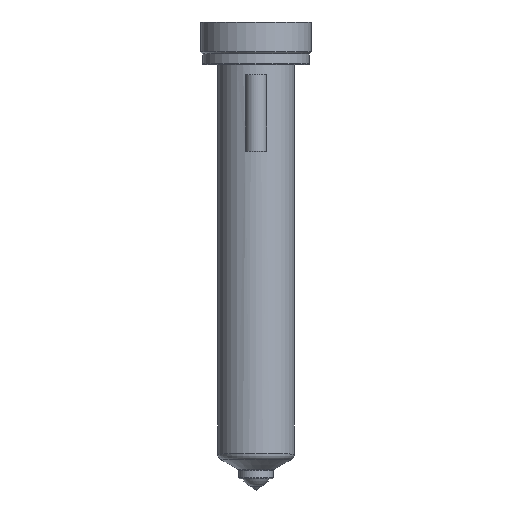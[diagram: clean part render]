
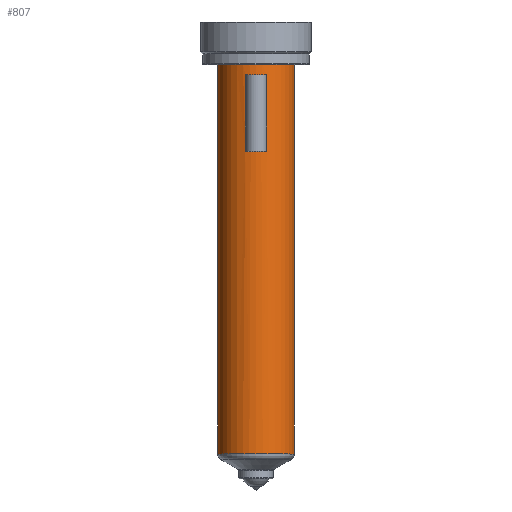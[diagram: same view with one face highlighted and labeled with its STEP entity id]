
A CAD part, top view. The second image highlights one B-rep face of the part: STEP entity #807.
In plain terms, the highlighted cylindrical face has radius 9 mm (diameter 18 mm), a partial arc.
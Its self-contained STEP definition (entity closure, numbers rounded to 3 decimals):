
#193=DIRECTION('',(0.,-1.,0.));
#194=VECTOR('',#193,91.544);
#195=CARTESIAN_POINT('',(9.,0.,0.));
#196=LINE('',#195,#194);
#197=CARTESIAN_POINT('',(0.,-91.544,0.));
#198=DIRECTION('',(0.,1.,0.));
#199=DIRECTION('',(-1.,0.,0.));
#200=AXIS2_PLACEMENT_3D('',#197,#198,#199);
#202=DIRECTION('',(0.,1.,0.));
#203=VECTOR('',#202,91.544);
#204=CARTESIAN_POINT('',(-9.,-91.544,0.));
#205=LINE('',#204,#203);
#206=CARTESIAN_POINT('',(0.,0.,0.));
#207=DIRECTION('',(0.,1.,0.));
#208=DIRECTION('',(-1.,0.,0.));
#209=AXIS2_PLACEMENT_3D('',#206,#207,#208);
#211=DIRECTION('',(0.,-1.,0.));
#212=VECTOR('',#211,18.);
#213=CARTESIAN_POINT('',(-2.5,-2.5,8.646));
#214=LINE('',#213,#212);
#215=DIRECTION('',(0.,1.,0.));
#216=VECTOR('',#215,18.);
#217=CARTESIAN_POINT('',(2.5,-20.5,8.646));
#218=LINE('',#217,#216);
#385=CARTESIAN_POINT('',(0.,-2.5,0.));
#386=DIRECTION('',(0.,-1.,0.));
#387=DIRECTION('',(0.278,0.,0.961));
#388=AXIS2_PLACEMENT_3D('',#385,#386,#387);
#403=CARTESIAN_POINT('',(0.,-20.5,0.));
#404=DIRECTION('',(0.,1.,0.));
#405=DIRECTION('',(-0.278,0.,0.961));
#406=AXIS2_PLACEMENT_3D('',#403,#404,#405);
#482=CARTESIAN_POINT('',(-9.,0.,0.));
#483=CARTESIAN_POINT('',(9.,0.,0.));
#484=VERTEX_POINT('',#482);
#485=VERTEX_POINT('',#483);
#494=CARTESIAN_POINT('',(-2.5,-2.5,8.646));
#495=VERTEX_POINT('',#494);
#496=CARTESIAN_POINT('',(2.5,-2.5,8.646));
#497=VERTEX_POINT('',#496);
#534=CARTESIAN_POINT('',(9.,-91.544,0.));
#535=VERTEX_POINT('',#534);
#544=CARTESIAN_POINT('',(-9.,-91.544,0.));
#545=VERTEX_POINT('',#544);
#566=CARTESIAN_POINT('',(-2.5,-20.5,8.646));
#567=CARTESIAN_POINT('',(2.5,-20.5,8.646));
#568=VERTEX_POINT('',#566);
#569=VERTEX_POINT('',#567);
#785=CARTESIAN_POINT('',(0.,11.15,0.));
#786=DIRECTION('',(0.,-1.,0.));
#787=DIRECTION('',(-1.,0.,0.));
#788=AXIS2_PLACEMENT_3D('',#785,#786,#787);
#789=CYLINDRICAL_SURFACE('',#788,9.);
#790=ORIENTED_EDGE('',*,*,#779,.T.);
#792=ORIENTED_EDGE('',*,*,#791,.F.);
#793=ORIENTED_EDGE('',*,*,#775,.T.);
#794=ORIENTED_EDGE('',*,*,#765,.T.);
#795=EDGE_LOOP('',(#790,#792,#793,#794));
#796=FACE_OUTER_BOUND('',#795,.F.);
#798=ORIENTED_EDGE('',*,*,#797,.T.);
#800=ORIENTED_EDGE('',*,*,#799,.T.);
#802=ORIENTED_EDGE('',*,*,#801,.T.);
#804=ORIENTED_EDGE('',*,*,#803,.T.);
#805=EDGE_LOOP('',(#798,#800,#802,#804));
#806=FACE_BOUND('',#805,.F.);
#807=ADVANCED_FACE('',(#796,#806),#789,.T.);
#201=CIRCLE('',#200,9.);
#210=CIRCLE('',#209,9.);
#389=CIRCLE('',#388,9.);
#407=CIRCLE('',#406,9.);
#765=EDGE_CURVE('',#484,#485,#210,.T.);
#775=EDGE_CURVE('',#545,#484,#205,.T.);
#779=EDGE_CURVE('',#485,#535,#196,.T.);
#791=EDGE_CURVE('',#545,#535,#201,.T.);
#797=EDGE_CURVE('',#495,#568,#214,.T.);
#799=EDGE_CURVE('',#568,#569,#407,.T.);
#801=EDGE_CURVE('',#569,#497,#218,.T.);
#803=EDGE_CURVE('',#497,#495,#389,.T.);
